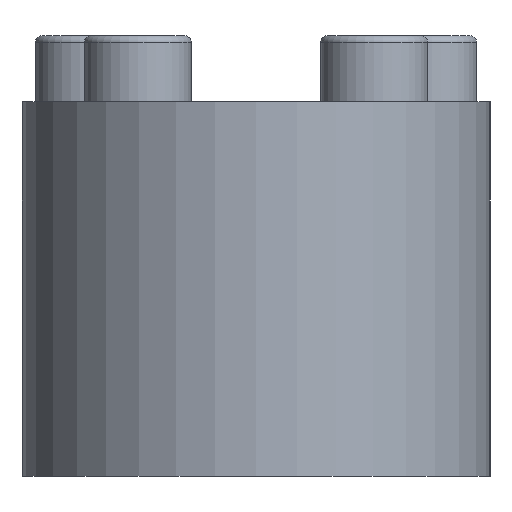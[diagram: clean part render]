
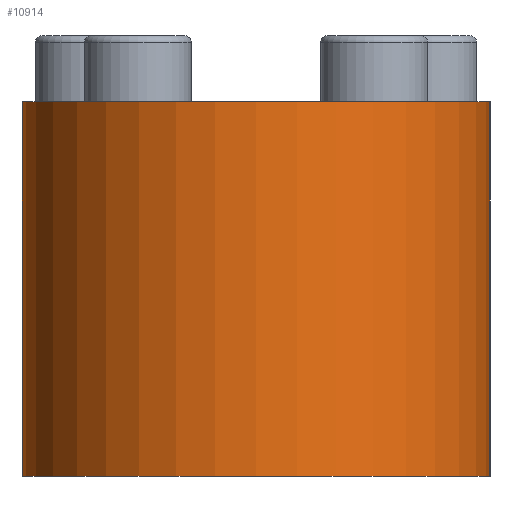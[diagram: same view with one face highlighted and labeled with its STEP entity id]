
A CAD part, left-side view. The second image highlights one B-rep face of the part: STEP entity #10914.
In plain terms, the highlighted cylindrical face has radius 35 mm (diameter 70 mm), a partial arc.
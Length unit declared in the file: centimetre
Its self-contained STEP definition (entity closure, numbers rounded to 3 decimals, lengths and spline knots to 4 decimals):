
#884=CYLINDRICAL_SURFACE('',#11576,3.5);
#1656=FACE_OUTER_BOUND('',#2349,.T.);
#2349=EDGE_LOOP('',(#8407,#8408,#8409,#8410));
#3164=LINE('',#15914,#4126);
#3165=LINE('',#15918,#4127);
#4126=VECTOR('',#12642,5.6);
#4127=VECTOR('',#12647,5.6);
#4731=CIRCLE('',#11377,3.5);
#4771=CIRCLE('',#11577,3.5);
#4798=VERTEX_POINT('',#13742);
#4801=VERTEX_POINT('',#13747);
#5384=VERTEX_POINT('',#15912);
#5385=VERTEX_POINT('',#15916);
#5839=EDGE_CURVE('',#4801,#4798,#4731,.T.);
#6524=EDGE_CURVE('',#5384,#4798,#3164,.T.);
#6525=EDGE_CURVE('',#5384,#5385,#4771,.T.);
#6526=EDGE_CURVE('',#5385,#4801,#3165,.T.);
#8407=ORIENTED_EDGE('',*,*,#6525,.F.);
#8408=ORIENTED_EDGE('',*,*,#6524,.T.);
#8409=ORIENTED_EDGE('',*,*,#5839,.F.);
#8410=ORIENTED_EDGE('',*,*,#6526,.F.);
#10914=ADVANCED_FACE('',(#1656),#884,.T.);
#11377=AXIS2_PLACEMENT_3D('',#13749,#11877,#11878);
#11576=AXIS2_PLACEMENT_3D('',#15915,#12643,#12644);
#11577=AXIS2_PLACEMENT_3D('',#15917,#12645,#12646);
#11877=DIRECTION('center_axis',(0.,0.,
1.));
#11878=DIRECTION('ref_axis',(0.,1.,0.));
#12642=DIRECTION('',(0.,0.,1.));
#12643=DIRECTION('center_axis',(0.,0.,1.));
#12644=DIRECTION('ref_axis',(0.,-1.,0.));
#12645=DIRECTION('center_axis',(0.,0.,-1.));
#12646=DIRECTION('ref_axis',(0.,-1.,0.));
#12647=DIRECTION('',(0.,0.,1.));
#13742=CARTESIAN_POINT('',(-12.3,-3.5,5.6));
#13747=CARTESIAN_POINT('',(-12.3,3.5,5.6));
#13749=CARTESIAN_POINT('Origin',(-12.3,0.,5.6));
#15912=CARTESIAN_POINT('',(-12.3,-3.5,0.));
#15914=CARTESIAN_POINT('',(-12.3,-3.5,0.));
#15915=CARTESIAN_POINT('Origin',(-12.3,0.,0.));
#15916=CARTESIAN_POINT('',(-12.3,3.5,0.));
#15917=CARTESIAN_POINT('Origin',(-12.3,0.,0.));
#15918=CARTESIAN_POINT('',(-12.3,3.5,0.));
